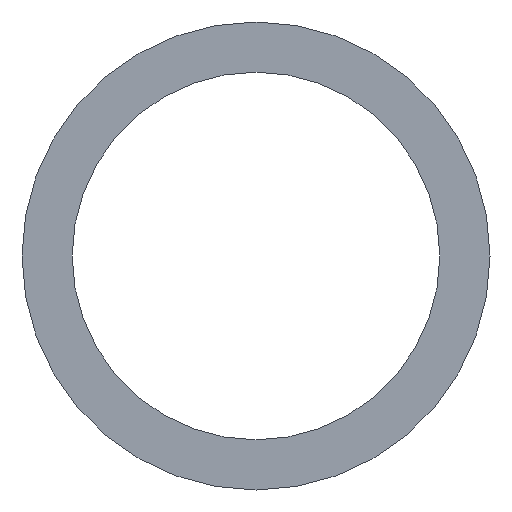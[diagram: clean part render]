
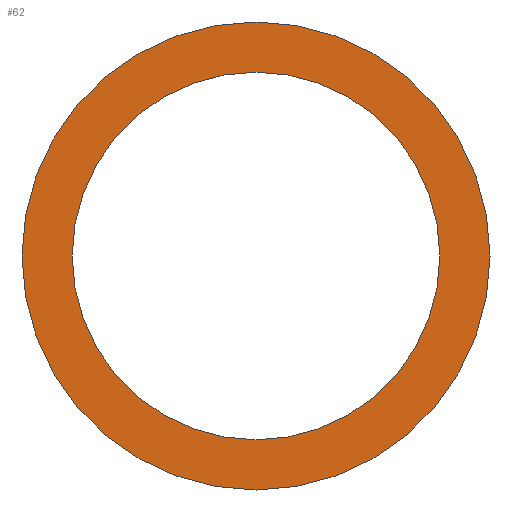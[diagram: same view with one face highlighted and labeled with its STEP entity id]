
A CAD part, front view. The second image highlights one B-rep face of the part: STEP entity #62.
In plain terms, the highlighted planar face has unit normal (0, -1, 0).
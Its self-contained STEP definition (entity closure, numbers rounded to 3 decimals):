
#20=PLANE('',#83);
#26=ORIENTED_EDGE('',*,*,#30,.T.);
#27=ORIENTED_EDGE('',*,*,#32,.F.);
#30=EDGE_CURVE('',#34,#34,#38,.T.);
#32=EDGE_CURVE('',#36,#36,#40,.T.);
#34=VERTEX_POINT('',#106);
#36=VERTEX_POINT('',#111);
#38=CIRCLE('',#78,441.5);
#40=CIRCLE('',#81,562.);
#46=EDGE_LOOP('',(#26));
#47=EDGE_LOOP('',(#27));
#54=FACE_BOUND('',#46,.T.);
#55=FACE_BOUND('',#47,.T.);
#62=ADVANCED_FACE('',(#54,#55),#20,.F.);
#78=AXIS2_PLACEMENT_3D('',#105,#89,#90);
#81=AXIS2_PLACEMENT_3D('',#110,#95,#96);
#83=AXIS2_PLACEMENT_3D('',#114,#99,#100);
#89=DIRECTION('',(0.,1.,0.));
#90=DIRECTION('',(1.,0.,0.));
#95=DIRECTION('',(0.,1.,0.));
#96=DIRECTION('',(1.,0.,0.));
#99=DIRECTION('',(0.,1.,0.));
#100=DIRECTION('',(0.,0.,1.));
#105=CARTESIAN_POINT('',(0.,-1.5,0.));
#106=CARTESIAN_POINT('',(441.5,-1.5,0.));
#110=CARTESIAN_POINT('',(0.,-1.5,0.));
#111=CARTESIAN_POINT('',(562.,-1.5,0.));
#114=CARTESIAN_POINT('',(0.,-1.5,0.));
